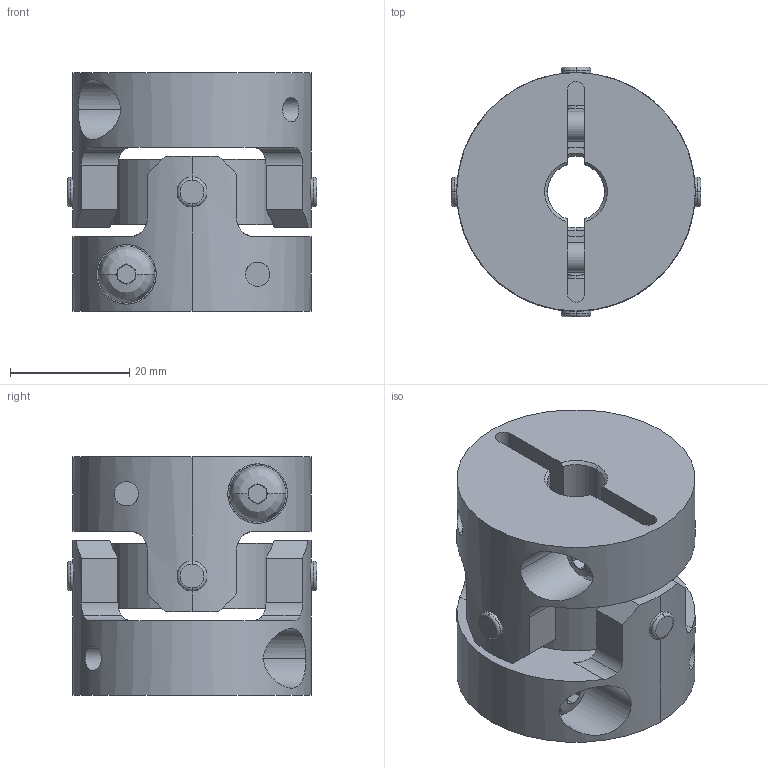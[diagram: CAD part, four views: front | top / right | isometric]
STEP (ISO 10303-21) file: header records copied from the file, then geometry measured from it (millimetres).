
FILE_DESCRIPTION((''),'2;1');
FILE_NAME('UA-40C-9.525×12.stp','2013-11-19T08:36:53',(''),(''),'AutoCAD STEP 2000i','AutoCAD 2000i',', , ');
FILE_SCHEMA(('CONFIG_CONTROL_DESIGN'));
Length unit declared in the file: millimetre
Products named in the file (6): UA-40C-8×8; 忣兜1; UA-4002-D08-1; BTN-M5; UA-4002-D08; UA40-SEN
Assembly tree (6 placements, depth 3):
  UA-40C-8×8
    忣兜1
    UA-4002-D08-1
      BTN-M5
    UA-4002-D08
      BTN-M5
    UA40-SEN
Bounding box: 41.81 x 41.81 x 40 mm (x, y, z)
Volume: 34377.3 mm3; surface area: 15625.7 mm2
Topology: 1 solids, 1 shells, 250 faces, 646 edges, 408 vertices
Faces by surface type: plane 122, cylinder 96, cone 16, bspline 8, torus 8
Entity records: 9627 total; most frequent: CARTESIAN_POINT 3371, ORIENTED_EDGE 1292, DIRECTION 1288, EDGE_CURVE 646, AXIS2_PLACEMENT_3D 497, VERTEX_POINT 408, VECTOR 294, LINE 294
